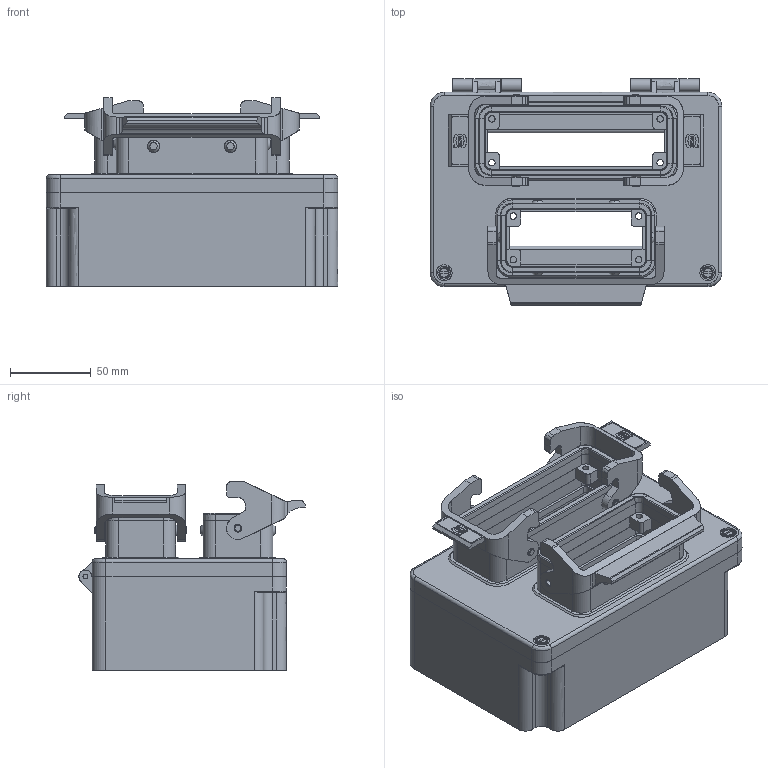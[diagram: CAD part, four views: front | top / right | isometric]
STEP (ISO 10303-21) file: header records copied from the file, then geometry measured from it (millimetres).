
FILE_DESCRIPTION( ( 'STEP AP214' ), '1' );
FILE_NAME( 'C:/Dokumente und Einstellungen/Administrator/Desktop/47 Kabelboxen/G4/10/gr_4_24e_16e-ab.stp', '2006-09-10T20:54:49', ( ' ' ), ( ' ' ), 'XStep 1.0', 'VISICAD', ' ' );
FILE_SCHEMA( ( 'automotive_design' ) );
Length unit declared in the file: millimetre
Products named in the file (1480): 1; 2; 3; 4; 5; 6; 7; 8; 9; 10; 11; 12; 13; 14; 15; 16; 17; 18; 19; 20; 21; 22; 23; 24; 25; 26; 27; 28; 29; 30; 31; 32; 33; 34; 35; 36; 37; 38; 39; 40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
Bounding box: 180 x 139.68 x 116.7 mm (x, y, z)
Surface area: 213819.6 mm2 (no closed solid volume)
Topology: 0 solids, 1480 shells, 1480 faces, 7486 edges, 7478 vertices
Faces by surface type: plane 812, bspline 322, revolution 244, cylinder 102
Full cylindrical faces by diameter (mm): 0.76 x2, 0.84 x2, 5.1 x4
Entity records: 154731 total; most frequent: CARTESIAN_POINT 65003, DIRECTION 11246, ORIENTED_EDGE 7478, EDGE_CURVE 7478, VERTEX_POINT 7478, LINE 4692, VECTOR 4692, AXIS2_PLACEMENT_3D 3155
